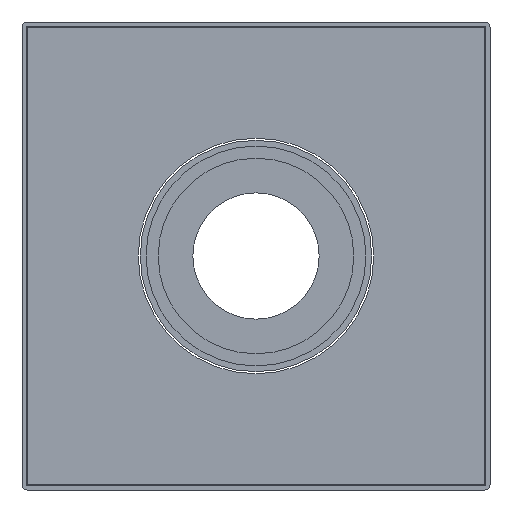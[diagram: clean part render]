
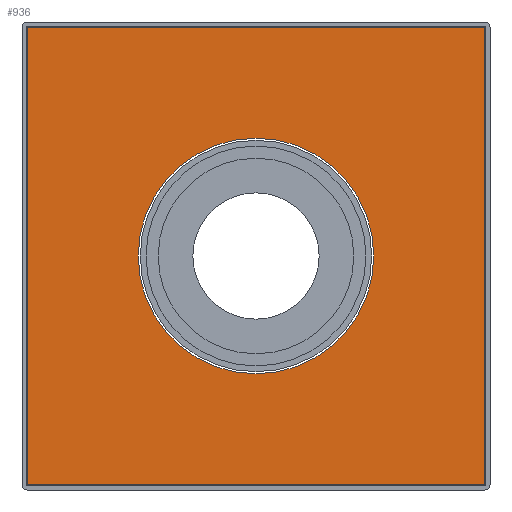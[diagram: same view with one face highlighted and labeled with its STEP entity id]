
A CAD part, front view. The second image highlights one B-rep face of the part: STEP entity #936.
In plain terms, the highlighted planar face has unit normal (0, -1, 0).
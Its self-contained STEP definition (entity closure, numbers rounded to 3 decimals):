
#591=CARTESIAN_POINT('',(0.,26.6,0.));
#592=DIRECTION('',(0.,1.,0.));
#593=DIRECTION('',(1.,0.,0.));
#594=AXIS2_PLACEMENT_3D('',#591,#592,#593);
#596=CARTESIAN_POINT('',(0.,26.6,0.));
#597=DIRECTION('',(0.,1.,0.));
#598=DIRECTION('',(-1.,0.,0.));
#599=AXIS2_PLACEMENT_3D('',#596,#597,#598);
#601=DIRECTION('',(0.,0.,-1.));
#602=VECTOR('',#601,43.7);
#603=CARTESIAN_POINT('',(21.85,26.6,21.85));
#604=LINE('',#603,#602);
#605=DIRECTION('',(-1.,0.,0.));
#606=VECTOR('',#605,43.7);
#607=CARTESIAN_POINT('',(21.85,26.6,-21.85));
#608=LINE('',#607,#606);
#609=DIRECTION('',(0.,0.,1.));
#610=VECTOR('',#609,43.7);
#611=CARTESIAN_POINT('',(-21.85,26.6,-21.85));
#612=LINE('',#611,#610);
#613=DIRECTION('',(1.,0.,0.));
#614=VECTOR('',#613,43.7);
#615=CARTESIAN_POINT('',(-21.85,26.6,21.85));
#616=LINE('',#615,#614);
#763=CARTESIAN_POINT('',(11.2,26.6,0.));
#764=CARTESIAN_POINT('',(-11.2,26.6,0.));
#765=VERTEX_POINT('',#763);
#766=VERTEX_POINT('',#764);
#775=CARTESIAN_POINT('',(21.85,26.6,21.85));
#776=CARTESIAN_POINT('',(21.85,26.6,-21.85));
#777=VERTEX_POINT('',#775);
#778=VERTEX_POINT('',#776);
#779=CARTESIAN_POINT('',(-21.85,26.6,-21.85));
#780=VERTEX_POINT('',#779);
#781=CARTESIAN_POINT('',(-21.85,26.6,21.85));
#782=VERTEX_POINT('',#781);
#916=CARTESIAN_POINT('',(0.,26.6,0.));
#917=DIRECTION('',(0.,-1.,0.));
#918=DIRECTION('',(0.,0.,-1.));
#919=AXIS2_PLACEMENT_3D('',#916,#917,#918);
#920=PLANE('',#919);
#921=ORIENTED_EDGE('',*,*,#906,.T.);
#923=ORIENTED_EDGE('',*,*,#922,.T.);
#925=ORIENTED_EDGE('',*,*,#924,.T.);
#927=ORIENTED_EDGE('',*,*,#926,.T.);
#928=EDGE_LOOP('',(#921,#923,#925,#927));
#929=FACE_OUTER_BOUND('',#928,.F.);
#931=ORIENTED_EDGE('',*,*,#930,.F.);
#933=ORIENTED_EDGE('',*,*,#932,.F.);
#934=EDGE_LOOP('',(#931,#933));
#935=FACE_BOUND('',#934,.F.);
#936=ADVANCED_FACE('',(#929,#935),#920,.T.);
#595=CIRCLE('',#594,11.2);
#600=CIRCLE('',#599,11.2);
#906=EDGE_CURVE('',#777,#778,#604,.T.);
#922=EDGE_CURVE('',#778,#780,#608,.T.);
#924=EDGE_CURVE('',#780,#782,#612,.T.);
#926=EDGE_CURVE('',#782,#777,#616,.T.);
#930=EDGE_CURVE('',#765,#766,#595,.T.);
#932=EDGE_CURVE('',#766,#765,#600,.T.);
